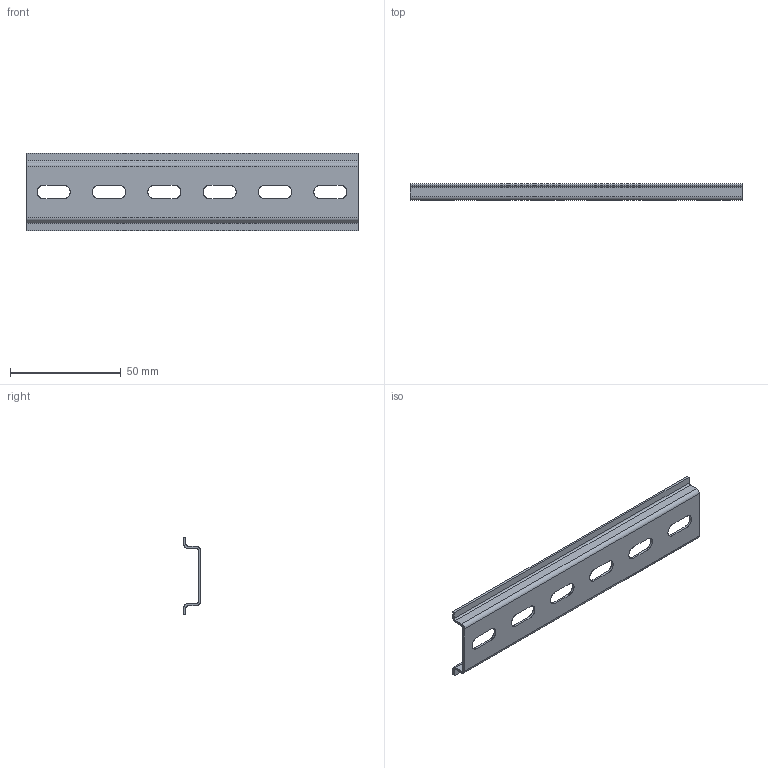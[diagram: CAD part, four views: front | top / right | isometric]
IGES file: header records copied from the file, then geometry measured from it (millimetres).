
Start section: SolidWorks IGES file using analytic representation for surfaces
Global section: file name: W:\end-user\products\dinr135\dinr135-015\3dmodel\render\dinr135-015.igs; native system: SolidWorks 2018; preprocessor: SolidWorks 2018; author: leviroy; date: 210610.093454; units: millimetre
Bounding box: 150 x 7.5 x 35 mm (x, y, z)
Surface area: 13327.4 mm2 (no closed solid volume)
Topology: 0 solids, 0 shells, 46 faces, 704 edges, 704 vertices
Faces by surface type: bspline 26, revolution 20
